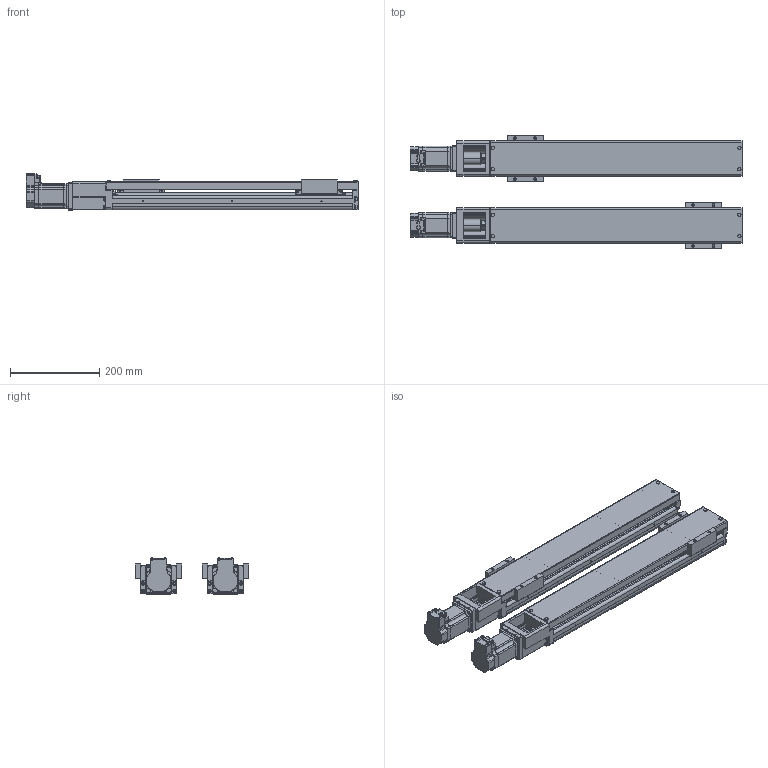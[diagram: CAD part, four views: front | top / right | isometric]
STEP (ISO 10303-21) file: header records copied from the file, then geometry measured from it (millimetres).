
FILE_DESCRIPTION(('STEP AP214'),'1');
FILE_NAME('C:\Users\RA\Desktop\作業\防塵\3D\砲台なし\DXF\2015.11.11\3D\tmp0.step',' ',(' '),(' '),'XStep 1.0',' ',' ');
FILE_SCHEMA(('automotive_design'));
Length unit declared in the file: millimetre
Products named in the file (42): 105; 110; 104; 69; 107; 108; 106; 109; 68; 112; 101; 111; 103; 70; 100; 102; 67; KR45H10A-0400-0-10A0(0-01)|_KR45H0A-540L-1A0(1_DM)-BodyCS;_KR45H0A-540L-1A0(1_DM)-BodyCS; KR45H10A-0400-0-10A0(0-01)|_KR45H(A400111)-SliderCS;_KR45H(A400111)-SliderCS; KR45H10A-0400-0-10A0(0-01)|_KR45H-A(1)-Slider SpacerCS;_KR45H-A(1)-Slider SpacerCS; KR45H10A-0400-0-10A0(0-01)|_KR45H-540-Protected CoverCS;_KR45H-540-Protected CoverCS
Bounding box: 745 x 254 x 81 mm (x, y, z)
Volume: 3649959.8 mm3; surface area: 988498.7 mm2
Topology: 42 solids, 42 shells, 3280 faces, 8378 edges, 5238 vertices
Faces by surface type: plane 1576, cylinder 1098, cone 396, torus 150, bspline 56, sphere 4
Entity records: 128503 total; most frequent: CARTESIAN_POINT 20626, DIRECTION 17428, ORIENTED_EDGE 16460, EDGE_CURVE 8230, AXIS2_PLACEMENT_3D 6086, LINE 5256, VECTOR 5256, VERTEX_POINT 5236
